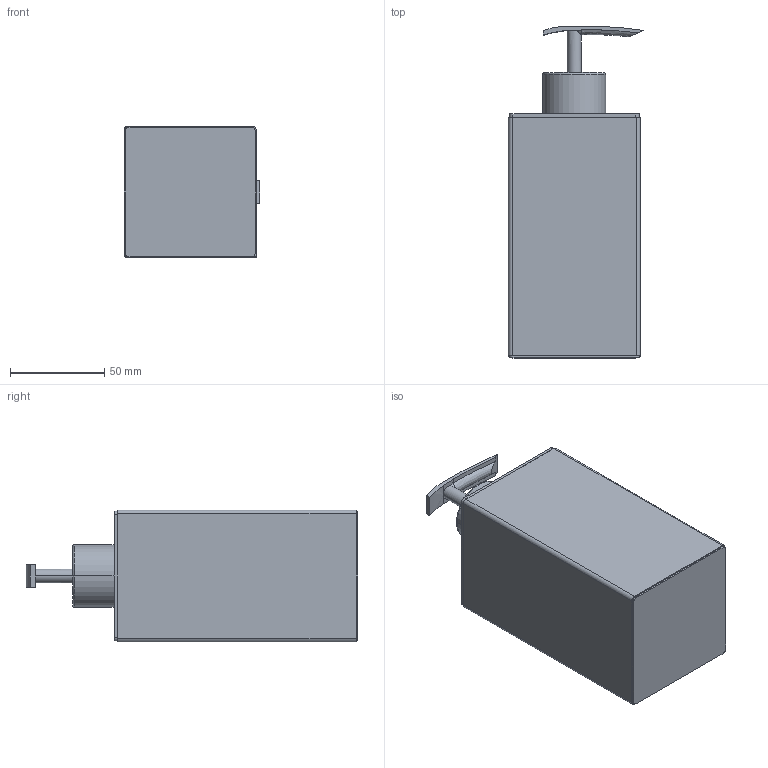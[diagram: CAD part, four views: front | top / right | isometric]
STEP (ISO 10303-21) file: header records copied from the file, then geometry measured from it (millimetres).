
FILE_DESCRIPTION (( 'STEP AP214' ), '1' );
FILE_NAME ('Dozownik do myd³a FRIEGO.STEP', '2025-11-20T06:49:36', ( '' ), ( '' ), 'SwSTEP 2.0', 'SolidWorks 2021', '' );
FILE_SCHEMA (( 'AUTOMOTIVE_DESIGN' ));
Length unit declared in the file: millimetre
Products named in the file (6): Tuleja z gwintem; Dozownik do myd³a FRIEGO; 06-003-0160-S-00-02; 06-003-0160-S-00-03; 06-003-0160-S-00-01; Pompka dozownika górna
Assembly tree (5 placements, depth 2):
  Dozownik do myd³a FRIEGO
    06-003-0160-S-00-02
    Tuleja z gwintem
    06-003-0160-S-00-01
    06-003-0160-S-00-03
    Pompka dozownika górna
Bounding box: 71.9 x 176.2 x 70 mm (x, y, z)
Volume: 71474.6 mm3; surface area: 97619.7 mm2
Topology: 5 solids, 5 shells, 102 faces, 234 edges, 145 vertices
Faces by surface type: plane 53, cylinder 37, bspline 10, torus 2
Entity records: 4829 total; most frequent: CARTESIAN_POINT 2364, ORIENTED_EDGE 468, DIRECTION 462, EDGE_CURVE 234, AXIS2_PLACEMENT_3D 170, VERTEX_POINT 145, VECTOR 122, LINE 122
